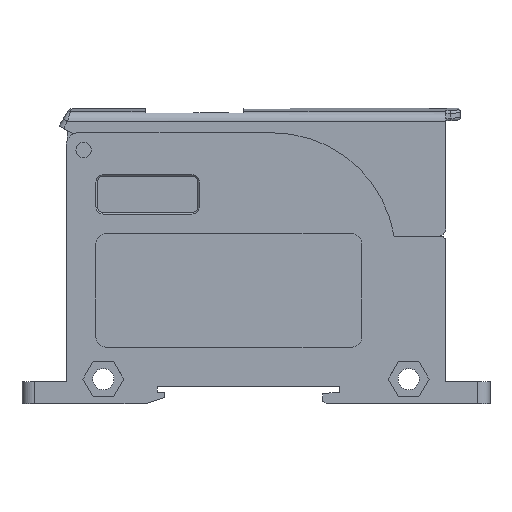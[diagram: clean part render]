
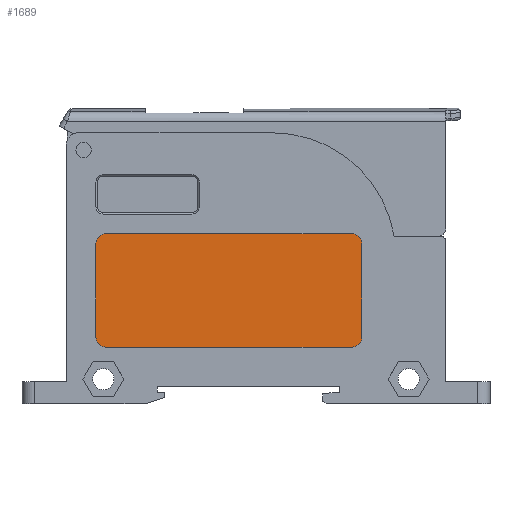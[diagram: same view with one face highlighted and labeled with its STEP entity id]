
A CAD part, left-side view. The second image highlights one B-rep face of the part: STEP entity #1689.
In plain terms, the highlighted planar face has unit normal (-1, 0, 0).
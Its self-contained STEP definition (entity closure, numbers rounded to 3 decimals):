
#186=PLANE('',#5198);
#370=FACE_OUTER_BOUND('',#2063,.T.);
#671=LINE('',#7100,#1209);
#672=LINE('',#7105,#1210);
#673=LINE('',#7109,#1211);
#674=LINE('',#7113,#1212);
#1209=VECTOR('',#5723,1.);
#1210=VECTOR('',#5726,1.);
#1211=VECTOR('',#5729,1.);
#1212=VECTOR('',#5732,1.);
#1689=ADVANCED_FACE('',(#370),#186,.T.);
#2063=EDGE_LOOP('',(#2474,#2475,#2476,#2477,#2478,#2479,#2480,#2481));
#2474=ORIENTED_EDGE('',*,*,#4388,.T.);
#2475=ORIENTED_EDGE('',*,*,#4389,.T.);
#2476=ORIENTED_EDGE('',*,*,#4390,.T.);
#2477=ORIENTED_EDGE('',*,*,#4391,.T.);
#2478=ORIENTED_EDGE('',*,*,#4392,.F.);
#2479=ORIENTED_EDGE('',*,*,#4393,.T.);
#2480=ORIENTED_EDGE('',*,*,#4394,.F.);
#2481=ORIENTED_EDGE('',*,*,#4395,.T.);
#3877=VERTEX_POINT('',#7101);
#3878=VERTEX_POINT('',#7102);
#3879=VERTEX_POINT('',#7104);
#3880=VERTEX_POINT('',#7106);
#3881=VERTEX_POINT('',#7108);
#3882=VERTEX_POINT('',#7110);
#3883=VERTEX_POINT('',#7112);
#3884=VERTEX_POINT('',#7114);
#4388=EDGE_CURVE('',#3877,#3878,#671,.T.);
#4389=EDGE_CURVE('',#3878,#3879,#5028,.T.);
#4390=EDGE_CURVE('',#3879,#3880,#672,.T.);
#4391=EDGE_CURVE('',#3880,#3881,#5029,.T.);
#4392=EDGE_CURVE('',#3882,#3881,#673,.T.);
#4393=EDGE_CURVE('',#3882,#3883,#5030,.T.);
#4394=EDGE_CURVE('',#3884,#3883,#674,.T.);
#4395=EDGE_CURVE('',#3884,#3877,#5031,.T.);
#5028=CIRCLE('',#5194,2.);
#5029=CIRCLE('',#5195,2.);
#5030=CIRCLE('',#5196,2.);
#5031=CIRCLE('',#5197,2.);
#5194=AXIS2_PLACEMENT_3D('',#7103,#5724,#5725);
#5195=AXIS2_PLACEMENT_3D('',#7107,#5727,#5728);
#5196=AXIS2_PLACEMENT_3D('',#7111,#5730,#5731);
#5197=AXIS2_PLACEMENT_3D('',#7115,#5733,#5734);
#5198=AXIS2_PLACEMENT_3D('',#7116,#5735,#5736);
#5723=DIRECTION('',(0.,1.,0.));
#5724=DIRECTION('',(-1.,0.,0.));
#5725=DIRECTION('',(0.,0.,1.));
#5726=DIRECTION('',(0.,0.,-1.));
#5727=DIRECTION('',(-1.,0.,0.));
#5728=DIRECTION('',(0.,0.,1.));
#5729=DIRECTION('',(0.,1.,0.));
#5730=DIRECTION('',(-1.,0.,0.));
#5731=DIRECTION('',(0.,0.,1.));
#5732=DIRECTION('',(0.,0.,-1.));
#5733=DIRECTION('',(-1.,0.,0.));
#5734=DIRECTION('',(0.,0.,1.));
#5735=DIRECTION('',(-1.,0.,0.));
#5736=DIRECTION('',(0.,0.,1.));
#7100=CARTESIAN_POINT('',(-124.55,38.,20.05));
#7101=CARTESIAN_POINT('',(-124.55,12.5,20.05));
#7102=CARTESIAN_POINT('',(-124.55,62.5,20.05));
#7103=CARTESIAN_POINT('',(-124.55,62.5,18.05));
#7104=CARTESIAN_POINT('',(-124.55,64.5,18.05));
#7105=CARTESIAN_POINT('',(-124.55,64.5,0.));
#7106=CARTESIAN_POINT('',(-124.55,64.5,-0.95));
#7107=CARTESIAN_POINT('',(-124.55,62.5,-0.95));
#7108=CARTESIAN_POINT('',(-124.55,62.5,-2.95));
#7109=CARTESIAN_POINT('',(-124.55,38.,-2.95));
#7110=CARTESIAN_POINT('',(-124.55,12.5,-2.95));
#7111=CARTESIAN_POINT('',(-124.55,12.5,-0.95));
#7112=CARTESIAN_POINT('',(-124.55,10.5,-0.95));
#7113=CARTESIAN_POINT('',(-124.55,10.5,0.));
#7114=CARTESIAN_POINT('',(-124.55,10.5,18.05));
#7115=CARTESIAN_POINT('',(-124.55,12.5,18.05));
#7116=CARTESIAN_POINT('',(-124.55,38.,0.));
